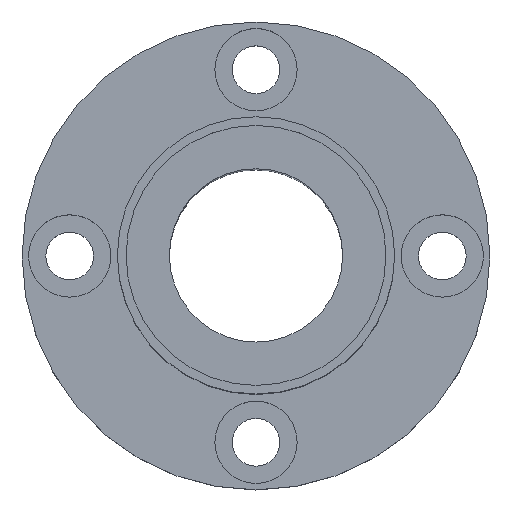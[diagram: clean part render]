
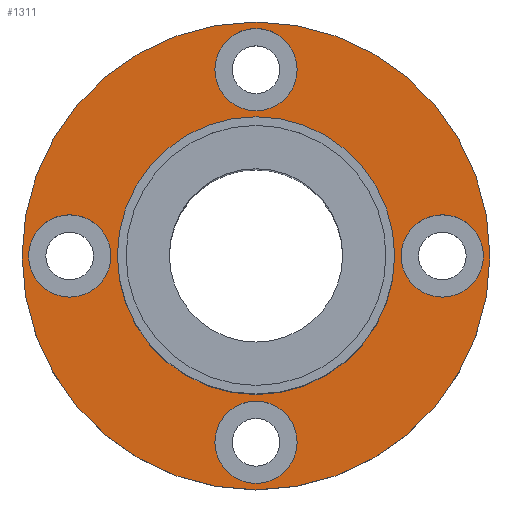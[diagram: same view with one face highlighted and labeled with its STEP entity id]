
A CAD part, top view. The second image highlights one B-rep face of the part: STEP entity #1311.
In plain terms, the highlighted planar face has unit normal (0, 0, 1).
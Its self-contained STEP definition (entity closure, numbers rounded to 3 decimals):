
#217=CARTESIAN_POINT('',(-10.86,-1.402,44.0));
#218=VERTEX_POINT('',#217);
#227=CARTESIAN_POINT('',(21.14,-1.402,44.0));
#228=VERTEX_POINT('',#227);
#229=CARTESIAN_POINT('',(5.14,-1.402,44.0));
#230=DIRECTION('',(0.0,0.0,1.0));
#231=DIRECTION('',(-1.0,0.0,0.0));
#232=AXIS2_PLACEMENT_3D('',#229,#230,#231);
#233=CIRCLE('',#232,16.0);
#234=EDGE_CURVE('',#218,#228,#233,.T.);
#261=CARTESIAN_POINT('',(32.14,-1.402,44.0));
#262=VERTEX_POINT('',#261);
#278=CARTESIAN_POINT('',(-21.86,-1.402,44.0));
#279=VERTEX_POINT('',#278);
#286=CARTESIAN_POINT('',(5.14,-1.402,44.0));
#287=DIRECTION('',(0.0,0.0,-1.0));
#288=DIRECTION('',(1.0,0.0,0.0));
#289=AXIS2_PLACEMENT_3D('',#286,#287,#288);
#290=CIRCLE('',#289,27.0);
#291=EDGE_CURVE('',#279,#262,#290,.T.);
#387=CARTESIAN_POINT('',(-11.61,-1.402,44.0));
#388=VERTEX_POINT('',#387);
#404=CARTESIAN_POINT('',(-21.11,-1.402,44.0));
#405=VERTEX_POINT('',#404);
#412=CARTESIAN_POINT('',(-16.36,-1.402,44.0));
#413=DIRECTION('',(0.0,0.0,-1.0));
#414=DIRECTION('',(1.0,0.0,0.0));
#415=AXIS2_PLACEMENT_3D('',#412,#413,#414);
#416=CIRCLE('',#415,4.75);
#417=EDGE_CURVE('',#388,#405,#416,.T.);
#513=CARTESIAN_POINT('',(31.39,-1.402,44.0));
#514=VERTEX_POINT('',#513);
#530=CARTESIAN_POINT('',(21.89,-1.402,44.0));
#531=VERTEX_POINT('',#530);
#538=CARTESIAN_POINT('',(26.64,-1.402,44.0));
#539=DIRECTION('',(0.0,0.0,-1.0));
#540=DIRECTION('',(1.0,0.0,0.0));
#541=AXIS2_PLACEMENT_3D('',#538,#539,#540);
#542=CIRCLE('',#541,4.75);
#543=EDGE_CURVE('',#514,#531,#542,.T.);
#639=CARTESIAN_POINT('',(9.89,-22.902,44.0));
#640=VERTEX_POINT('',#639);
#656=CARTESIAN_POINT('',(0.39,-22.902,44.0));
#657=VERTEX_POINT('',#656);
#664=CARTESIAN_POINT('',(5.14,-22.902,44.0));
#665=DIRECTION('',(0.0,0.0,-1.0));
#666=DIRECTION('',(1.0,0.0,0.0));
#667=AXIS2_PLACEMENT_3D('',#664,#665,#666);
#668=CIRCLE('',#667,4.75);
#669=EDGE_CURVE('',#640,#657,#668,.T.);
#765=CARTESIAN_POINT('',(9.89,20.098,44.0));
#766=VERTEX_POINT('',#765);
#782=CARTESIAN_POINT('',(0.39,20.098,44.0));
#783=VERTEX_POINT('',#782);
#790=CARTESIAN_POINT('',(5.14,20.098,44.0));
#791=DIRECTION('',(0.0,0.0,-1.0));
#792=DIRECTION('',(1.0,0.0,0.0));
#793=AXIS2_PLACEMENT_3D('',#790,#791,#792);
#794=CIRCLE('',#793,4.75);
#795=EDGE_CURVE('',#766,#783,#794,.T.);
#853=CARTESIAN_POINT('',(5.14,20.098,44.0));
#854=DIRECTION('',(0.0,0.0,-1.0));
#855=DIRECTION('',(1.0,0.0,0.0));
#856=AXIS2_PLACEMENT_3D('',#853,#854,#855);
#857=CIRCLE('',#856,4.75);
#858=EDGE_CURVE('',#783,#766,#857,.T.);
#957=CARTESIAN_POINT('',(5.14,-22.902,44.0));
#958=DIRECTION('',(0.0,0.0,-1.0));
#959=DIRECTION('',(1.0,0.0,0.0));
#960=AXIS2_PLACEMENT_3D('',#957,#958,#959);
#961=CIRCLE('',#960,4.75);
#962=EDGE_CURVE('',#657,#640,#961,.T.);
#1061=CARTESIAN_POINT('',(26.64,-1.402,44.0));
#1062=DIRECTION('',(0.0,0.0,-1.0));
#1063=DIRECTION('',(1.0,0.0,0.0));
#1064=AXIS2_PLACEMENT_3D('',#1061,#1062,#1063);
#1065=CIRCLE('',#1064,4.75);
#1066=EDGE_CURVE('',#531,#514,#1065,.T.);
#1165=CARTESIAN_POINT('',(-16.36,-1.402,44.0));
#1166=DIRECTION('',(0.0,0.0,-1.0));
#1167=DIRECTION('',(1.0,0.0,0.0));
#1168=AXIS2_PLACEMENT_3D('',#1165,#1166,#1167);
#1169=CIRCLE('',#1168,4.75);
#1170=EDGE_CURVE('',#405,#388,#1169,.T.);
#1222=CARTESIAN_POINT('',(5.14,-1.402,44.0));
#1223=DIRECTION('',(0.0,0.0,-1.0));
#1224=DIRECTION('',(1.0,0.0,0.0));
#1225=AXIS2_PLACEMENT_3D('',#1222,#1223,#1224);
#1226=CIRCLE('',#1225,27.0);
#1227=EDGE_CURVE('',#262,#279,#1226,.T.);
#1276=CARTESIAN_POINT('',(5.14,-1.402,44.0));
#1277=DIRECTION('',(0.0,0.0,1.0));
#1278=DIRECTION('',(1.0,0.0,0.0));
#1279=AXIS2_PLACEMENT_3D('',#1276,#1277,#1278);
#1280=PLANE('',#1279);
#1281=ORIENTED_EDGE('',*,*,#291,.F.);
#1282=ORIENTED_EDGE('',*,*,#1227,.F.);
#1283=EDGE_LOOP('',(#1281,#1282));
#1284=FACE_OUTER_BOUND('',#1283,.T.);
#1285=ORIENTED_EDGE('',*,*,#795,.T.);
#1286=ORIENTED_EDGE('',*,*,#858,.T.);
#1287=EDGE_LOOP('',(#1285,#1286));
#1288=FACE_BOUND('',#1287,.T.);
#1289=ORIENTED_EDGE('',*,*,#669,.T.);
#1290=ORIENTED_EDGE('',*,*,#962,.T.);
#1291=EDGE_LOOP('',(#1289,#1290));
#1292=FACE_BOUND('',#1291,.T.);
#1293=ORIENTED_EDGE('',*,*,#543,.T.);
#1294=ORIENTED_EDGE('',*,*,#1066,.T.);
#1295=EDGE_LOOP('',(#1293,#1294));
#1296=FACE_BOUND('',#1295,.T.);
#1297=ORIENTED_EDGE('',*,*,#417,.T.);
#1298=ORIENTED_EDGE('',*,*,#1170,.T.);
#1299=EDGE_LOOP('',(#1297,#1298));
#1300=FACE_BOUND('',#1299,.T.);
#1301=ORIENTED_EDGE('',*,*,#234,.F.);
#1302=CARTESIAN_POINT('',(5.14,-1.402,44.0));
#1303=DIRECTION('',(0.0,0.0,1.0));
#1304=DIRECTION('',(-1.0,0.0,0.0));
#1305=AXIS2_PLACEMENT_3D('',#1302,#1303,#1304);
#1306=CIRCLE('',#1305,16.0);
#1307=EDGE_CURVE('',#228,#218,#1306,.T.);
#1308=ORIENTED_EDGE('',*,*,#1307,.F.);
#1309=EDGE_LOOP('',(#1301,#1308));
#1310=FACE_BOUND('',#1309,.T.);
#1311=ADVANCED_FACE('',(#1284,#1288,#1292,#1296,#1300,#1310),#1280,.T.);
